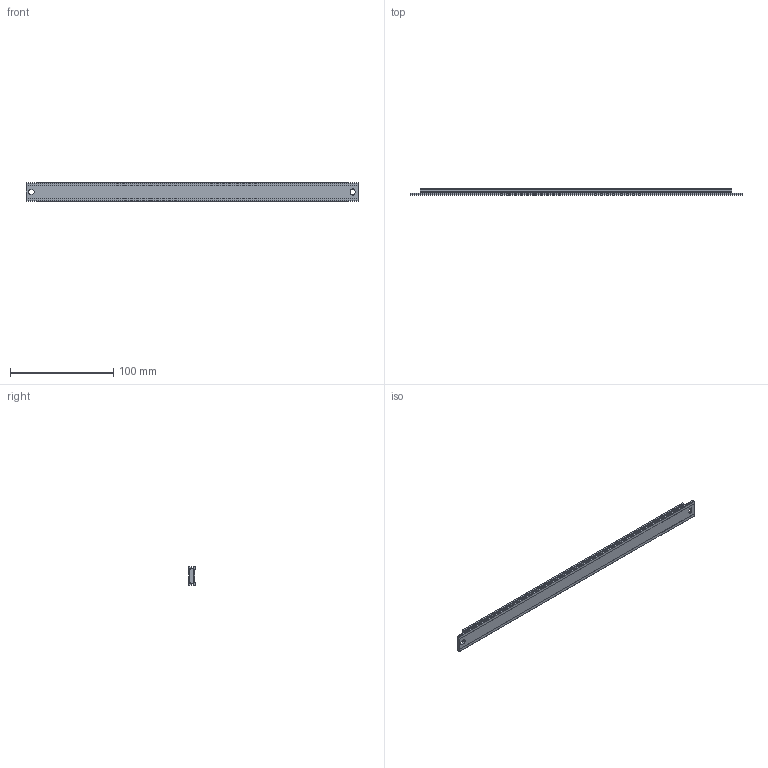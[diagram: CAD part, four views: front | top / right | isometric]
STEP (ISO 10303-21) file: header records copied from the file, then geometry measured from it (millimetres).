
FILE_DESCRIPTION (( 'STEP AP214' ), '1' );
FILE_NAME ('SAScale_exposed.ScaleLneght322.STEP', '2026-03-10T09:09:48', ( '' ), ( '' ), 'SwSTEP 2.0', 'SolidWorks 2024', '' );
FILE_SCHEMA (( 'AUTOMOTIVE_DESIGN' ));
Length unit declared in the file: millimetre
Products named in the file (1): SAScale_exposed.ScaleLneght322
Bounding box: 322 x 6 x 18 mm (x, y, z)
Volume: 30835.4 mm3; surface area: 27048.4 mm2
Topology: 2 solids, 2 shells, 52 faces, 141 edges, 94 vertices
Faces by surface type: plane 37, cylinder 15
Entity records: 2247 total; most frequent: CARTESIAN_POINT 288, ORIENTED_EDGE 282, DIRECTION 277, EDGE_CURVE 141, LINE 111, VECTOR 111, VERTEX_POINT 94, AXIS2_PLACEMENT_3D 83
